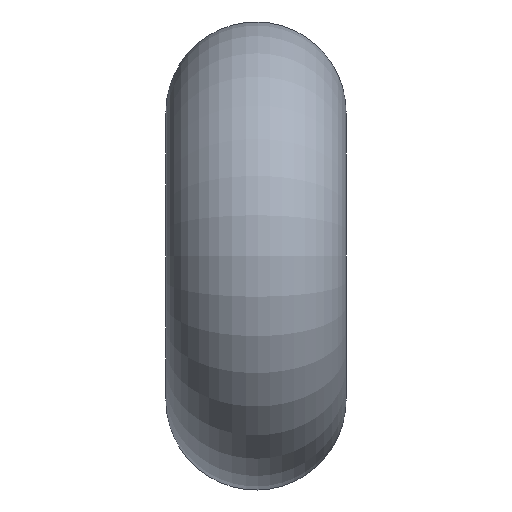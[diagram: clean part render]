
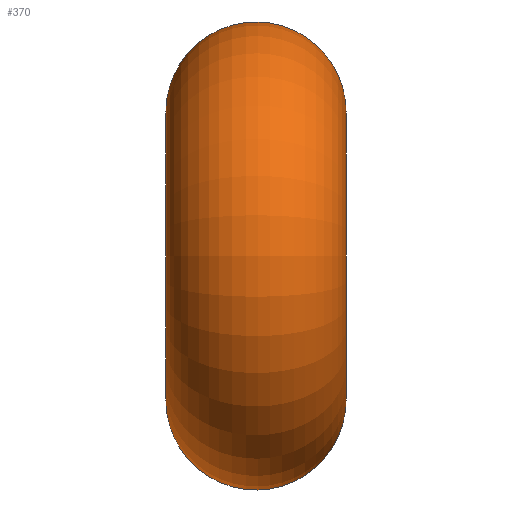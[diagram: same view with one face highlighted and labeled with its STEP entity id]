
A CAD part, left-side view. The second image highlights one B-rep face of the part: STEP entity #370.
In plain terms, the highlighted toroidal (fillet/blend) face has major radius 4 mm and minor radius 2.5 mm.
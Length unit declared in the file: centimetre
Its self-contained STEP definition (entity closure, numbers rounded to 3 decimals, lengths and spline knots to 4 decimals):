
#93=CARTESIAN_POINT('',(0.6156,0.1149,-0.1778));
#94=VERTEX_POINT('',#93);
#115=CARTESIAN_POINT('',(0.5201,0.2135,-0.272));
#116=VERTEX_POINT('',#115);
#124=CARTESIAN_POINT('',(0.5201,0.2135,-0.272));
#125=CARTESIAN_POINT('',(0.529,0.214,-0.2541));
#126=CARTESIAN_POINT('',(0.5501,0.2089,-0.2193));
#127=CARTESIAN_POINT('',(0.5904,0.1759,-0.1798));
#128=CARTESIAN_POINT('',(0.6098,0.1382,-0.1745));
#129=CARTESIAN_POINT('',(0.6156,0.1149,-0.1778));
#130=B_SPLINE_CURVE_WITH_KNOTS('',3,(#124,#125,#126,#127,#128,#129),.UNSPECIFIED.,.F.,.U.,(4,1,1,4),(0.2032,0.2277,0.2523,0.2892),.UNSPECIFIED.);
#131=EDGE_CURVE('',#116,#94,#130,.T.);
#223=CARTESIAN_POINT('',(0.6156,0.1149,-0.1778));
#224=CARTESIAN_POINT('',(0.6171,0.1087,-0.1787));
#225=CARTESIAN_POINT('',(0.6196,0.096,-0.1811));
#226=CARTESIAN_POINT('',(0.6215,0.0709,-0.1885));
#227=CARTESIAN_POINT('',(0.6165,0.0284,-0.2106));
#228=CARTESIAN_POINT('',(0.5974,0.0027,-0.2481));
#229=CARTESIAN_POINT('',(0.5812,-0.0048,-0.2786));
#230=CARTESIAN_POINT('',(0.5775,-0.0062,-0.2854));
#231=CARTESIAN_POINT('',(0.5711,-0.0079,-0.2975));
#232=CARTESIAN_POINT('',(0.5578,-0.0083,-0.3219));
#233=CARTESIAN_POINT('',(0.5391,-0.0002,-0.3561));
#234=CARTESIAN_POINT('',(0.5191,0.0222,-0.3903));
#235=CARTESIAN_POINT('',(0.4975,0.0652,-0.4211));
#236=CARTESIAN_POINT('',(0.4817,0.1331,-0.4207));
#237=CARTESIAN_POINT('',(0.4853,0.1963,-0.3612));
#238=CARTESIAN_POINT('',(0.5057,0.2128,-0.301));
#239=CARTESIAN_POINT('',(0.5201,0.2135,-0.272));
#240=B_SPLINE_CURVE_WITH_KNOTS('',3,(#223,#224,#225,#226,#227,#228,#229,#230,#231,#232,#233,#234,#235,#236,#237,#238,#239),.UNSPECIFIED.,.F.,.U.,(4,1,1,1,1,1,1,1,1,1,1,1,1,1,4),(0.,0.0134,0.0267,0.0535,0.107,0.1103,0.1137,0.1203,0.1337,0.1605,0.1872,0.2139,0.2674,0.3209,0.3744),.UNSPECIFIED.);
#241=EDGE_CURVE('',#94,#116,#240,.T.);
#304=CARTESIAN_POINT('',(0.0,0.0475,0.0));
#305=DIRECTION('',(0.0,1.0,0.0));
#306=DIRECTION('',(1.0,0.0,0.0));
#307=AXIS2_PLACEMENT_3D('',#304,#305,#306);
#308=TOROIDAL_SURFACE('',#307,0.4,0.25);
#309=CARTESIAN_POINT('',(0.5201,-0.1185,0.272));
#310=VERTEX_POINT('',#309);
#311=CARTESIAN_POINT('',(0.6156,-0.0199,0.1778));
#312=VERTEX_POINT('',#311);
#313=CARTESIAN_POINT('',(0.5201,-0.1185,0.272));
#314=CARTESIAN_POINT('',(0.529,-0.119,0.2541));
#315=CARTESIAN_POINT('',(0.5501,-0.1139,0.2193));
#316=CARTESIAN_POINT('',(0.5904,-0.0809,0.1798));
#317=CARTESIAN_POINT('',(0.6098,-0.0432,0.1745));
#318=CARTESIAN_POINT('',(0.6156,-0.0199,0.1778));
#319=B_SPLINE_CURVE_WITH_KNOTS('',3,(#313,#314,#315,#316,#317,#318),.UNSPECIFIED.,.F.,.U.,(4,1,1,4),(0.2032,0.2277,0.2523,0.2892),.UNSPECIFIED.);
#320=EDGE_CURVE('',#310,#312,#319,.T.);
#321=ORIENTED_EDGE('',*,*,#320,.F.);
#322=CARTESIAN_POINT('',(0.6156,-0.0199,0.1778));
#323=CARTESIAN_POINT('',(0.6171,-0.0137,0.1787));
#324=CARTESIAN_POINT('',(0.6196,-0.0011,0.1811));
#325=CARTESIAN_POINT('',(0.6215,0.0242,0.1885));
#326=CARTESIAN_POINT('',(0.6179,0.0544,0.2043));
#327=CARTESIAN_POINT('',(0.6043,0.0832,0.2346));
#328=CARTESIAN_POINT('',(0.5893,0.0963,0.2633));
#329=CARTESIAN_POINT('',(0.5785,0.1009,0.2837));
#330=CARTESIAN_POINT('',(0.5711,0.1029,0.2975));
#331=CARTESIAN_POINT('',(0.5578,0.1033,0.3219));
#332=CARTESIAN_POINT('',(0.5391,0.0952,0.3561));
#333=CARTESIAN_POINT('',(0.5191,0.0728,0.3903));
#334=CARTESIAN_POINT('',(0.4974,0.0297,0.4211));
#335=CARTESIAN_POINT('',(0.4817,-0.0382,0.4208));
#336=CARTESIAN_POINT('',(0.4853,-0.1011,0.3612));
#337=CARTESIAN_POINT('',(0.5057,-0.1178,0.301));
#338=CARTESIAN_POINT('',(0.5201,-0.1185,0.272));
#339=B_SPLINE_CURVE_WITH_KNOTS('',3,(#322,#323,#324,#325,#326,#327,#328,#329,#330,#331,#332,#333,#334,#335,#336,#337,#338),.UNSPECIFIED.,.F.,.U.,(4,1,1,1,1,1,1,1,1,1,1,1,1,1,4),(0.,0.0134,0.0267,0.0535,0.0802,0.107,0.1137,0.1203,0.1337,0.1605,0.1872,0.2139,0.2674,0.3209,0.3744),.UNSPECIFIED.);
#340=EDGE_CURVE('',#312,#310,#339,.T.);
#341=ORIENTED_EDGE('',*,*,#340,.F.);
#342=EDGE_LOOP('',(#321,#341));
#343=FACE_OUTER_BOUND('',#342,.T.);
#344=CARTESIAN_POINT('',(0.4,-0.2025,0.));
#345=VERTEX_POINT('',#344);
#346=CARTESIAN_POINT('',(0.0,-0.2025,0.0));
#347=DIRECTION('',(0.0,1.0,0.0));
#348=DIRECTION('',(-1.0,0.0,0.0));
#349=AXIS2_PLACEMENT_3D('',#346,#347,#348);
#350=CIRCLE('',#349,0.4);
#351=EDGE_CURVE('',#345,#345,#350,.T.);
#352=ORIENTED_EDGE('',*,*,#351,.T.);
#353=EDGE_LOOP('',(#352));
#354=FACE_BOUND('',#353,.T.);
#355=CARTESIAN_POINT('',(0.4,0.2975,0.));
#356=VERTEX_POINT('',#355);
#357=CARTESIAN_POINT('',(0.0,0.2975,0.0));
#358=DIRECTION('',(0.0,-1.0,0.0));
#359=DIRECTION('',(-1.0,0.0,0.0));
#360=AXIS2_PLACEMENT_3D('',#357,#358,#359);
#361=CIRCLE('',#360,0.4);
#362=EDGE_CURVE('',#356,#356,#361,.T.);
#363=ORIENTED_EDGE('',*,*,#362,.T.);
#364=EDGE_LOOP('',(#363));
#365=FACE_BOUND('',#364,.T.);
#366=ORIENTED_EDGE('',*,*,#131,.F.);
#367=ORIENTED_EDGE('',*,*,#241,.F.);
#368=EDGE_LOOP('',(#366,#367));
#369=FACE_BOUND('',#368,.T.);
#370=ADVANCED_FACE('',(#343,#354,#365,#369),#308,.T.);
